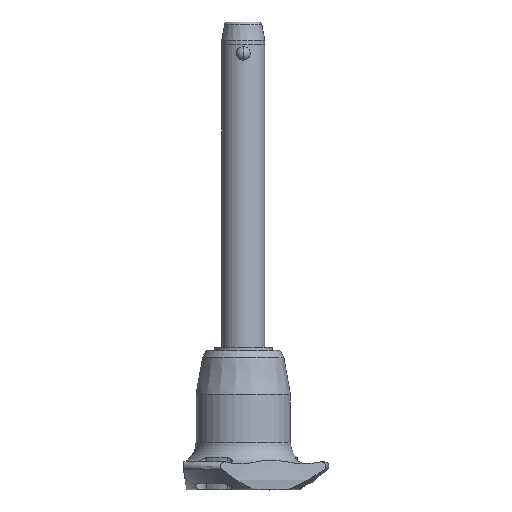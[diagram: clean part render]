
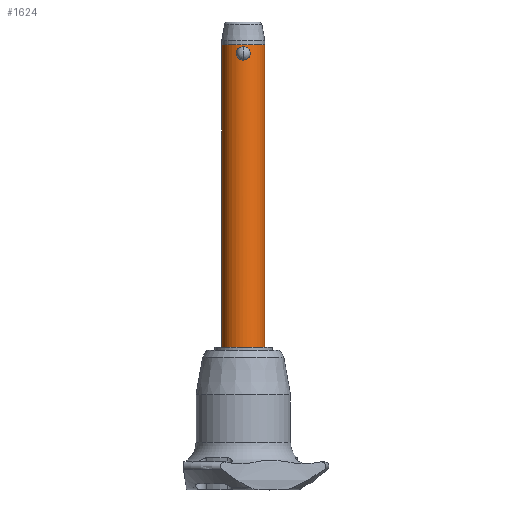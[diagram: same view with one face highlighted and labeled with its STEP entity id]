
A CAD part, front view. The second image highlights one B-rep face of the part: STEP entity #1624.
In plain terms, the highlighted cylindrical face has radius 6 mm (diameter 12 mm), a partial arc.
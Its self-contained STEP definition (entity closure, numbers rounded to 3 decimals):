
#3 = CARTESIAN_POINT ( 'NONE',  ( 0.966, -5.923, 3.476 ) ) ;
#39 = VERTEX_POINT ( 'NONE', #86 ) ;
#46 = CARTESIAN_POINT ( 'NONE',  ( -1.7, -5.755, 0.895 ) ) ;
#86 = CARTESIAN_POINT ( 'NONE',  ( -6., 0., -80. ) ) ;
#89 = CARTESIAN_POINT ( 'NONE',  ( 0.853, -5.94, 0.177 ) ) ;
#126 = CARTESIAN_POINT ( 'NONE',  ( 0., -6., 0. ) ) ;
#182 = CARTESIAN_POINT ( 'NONE',  ( 1.279, -5.863, 3.27 ) ) ;
#192 = CARTESIAN_POINT ( 'NONE',  ( 6., 0., -80. ) ) ;
#215 = LINE ( 'NONE', #1613, #2433 ) ;
#286 = CARTESIAN_POINT ( 'NONE',  ( 0., -6., 3.708 ) ) ;
#312 = CARTESIAN_POINT ( 'NONE',  ( 0.503, -5.983, 0.045 ) ) ;
#314 = CARTESIAN_POINT ( 'NONE',  ( -1.278, -5.863, 0.437 ) ) ;
#324 = B_SPLINE_CURVE_WITH_KNOTS ( 'NONE', 3,
 ( #126, #810, #312, #89, #2175, #1087, #1992, #1779, #408, #421, #2035, #2470, #2730, #1319, #2499, #1573, #435, #2690, #467, #182, #2225, #3, #2486, #1376, #1347, #859, #454, #1823 ),
 .UNSPECIFIED., .F., .F.,
 ( 4, 2, 2, 2, 2, 2, 2, 2, 2, 2, 2, 2, 2, 4 ),
 ( 0.006, 0.007, 0.007, 0.008, 0.008, 0.008, 0.009, 0.009, 0.01, 0.011, 0.011, 0.011, 0.012, 0.012 ),
 .UNSPECIFIED. ) ;
#338 = EDGE_CURVE ( 'NONE', #39, #725, #215, .T. ) ;
#353 = ORIENTED_EDGE ( 'NONE', *, *, #2637, .F. ) ;
#408 = CARTESIAN_POINT ( 'NONE',  ( 1.543, -5.799, 0.699 ) ) ;
#421 = CARTESIAN_POINT ( 'NONE',  ( 1.687, -5.758, 0.899 ) ) ;
#431 = LINE ( 'NONE', #192, #541 ) ;
#435 = CARTESIAN_POINT ( 'NONE',  ( 1.851, -5.708, 2.47 ) ) ;
#443 = B_SPLINE_CURVE_WITH_KNOTS ( 'NONE', 3,
 ( #286, #991, #731, #1402, #2756, #2307, #1641, #2800, #766, #719, #2816, #1197, #1626, #524, #2084, #1880, #2544, #747, #1656, #46, #1433, #314, #508, #2099, #1673, #1417, #1449, #2785 ),
 .UNSPECIFIED., .F., .F.,
 ( 4, 2, 2, 2, 2, 2, 2, 2, 2, 2, 2, 2, 2, 4 ),
 ( 0., 0., 0.001, 0.001, 0.002, 0.002, 0.002, 0.003, 0.003, 0.004, 0.005, 0.005, 0.005, 0.006 ),
 .UNSPECIFIED. ) ;
#454 = CARTESIAN_POINT ( 'NONE',  ( 0.127, -6., 3.708 ) ) ;
#463 = CARTESIAN_POINT ( 'NONE',  ( 0., -6., 3.708 ) ) ;
#467 = CARTESIAN_POINT ( 'NONE',  ( 1.551, -5.799, 3.018 ) ) ;
#508 = CARTESIAN_POINT ( 'NONE',  ( -1.179, -5.884, 0.363 ) ) ;
#524 = CARTESIAN_POINT ( 'NONE',  ( -1.9, -5.692, 2.359 ) ) ;
#541 = VECTOR ( 'NONE', #882, 1000. ) ;
#619 = CIRCLE ( 'NONE', #1957, 6. ) ;
#705 = CARTESIAN_POINT ( 'NONE',  ( 6., 0., -80. ) ) ;
#719 = CARTESIAN_POINT ( 'NONE',  ( -1.46, -5.821, 3.103 ) ) ;
#725 = VERTEX_POINT ( 'NONE', #2108 ) ;
#731 = CARTESIAN_POINT ( 'NONE',  ( -0.252, -5.996, 3.697 ) ) ;
#747 = CARTESIAN_POINT ( 'NONE',  ( -1.89, -5.695, 1.358 ) ) ;
#766 = CARTESIAN_POINT ( 'NONE',  ( -1.278, -5.863, 3.271 ) ) ;
#810 = CARTESIAN_POINT ( 'NONE',  ( 0.25, -6., 0. ) ) ;
#848 = ORIENTED_EDGE ( 'NONE', *, *, #1846, .T. ) ;
#859 = CARTESIAN_POINT ( 'NONE',  ( 0.252, -5.996, 3.697 ) ) ;
#867 = FACE_OUTER_BOUND ( 'NONE', #2642, .T. ) ;
#872 = DIRECTION ( 'NONE',  ( 1., 0., 0. ) ) ;
#882 = DIRECTION ( 'NONE',  ( 0., 0., 1. ) ) ;
#888 = CARTESIAN_POINT ( 'NONE',  ( 0., 0., 4.24 ) ) ;
#991 = CARTESIAN_POINT ( 'NONE',  ( -0.127, -6., 3.708 ) ) ;
#1046 = EDGE_LOOP ( 'NONE', ( #2703, #1228 ) ) ;
#1087 = CARTESIAN_POINT ( 'NONE',  ( 1.178, -5.884, 0.362 ) ) ;
#1123 = VERTEX_POINT ( 'NONE', #1194 ) ;
#1151 = FACE_BOUND ( 'NONE', #1046, .T. ) ;
#1194 = CARTESIAN_POINT ( 'NONE',  ( 6., 0., 4.24 ) ) ;
#1197 = CARTESIAN_POINT ( 'NONE',  ( -1.687, -5.759, 2.809 ) ) ;
#1228 = ORIENTED_EDGE ( 'NONE', *, *, #2614, .F. ) ;
#1283 = ORIENTED_EDGE ( 'NONE', *, *, #338, .F. ) ;
#1319 = CARTESIAN_POINT ( 'NONE',  ( 1.955, -5.673, 1.979 ) ) ;
#1347 = CARTESIAN_POINT ( 'NONE',  ( 0.498, -5.981, 3.652 ) ) ;
#1371 = CARTESIAN_POINT ( 'NONE',  ( 0., 0., -80. ) ) ;
#1376 = CARTESIAN_POINT ( 'NONE',  ( 0.62, -5.969, 3.619 ) ) ;
#1402 = CARTESIAN_POINT ( 'NONE',  ( -0.498, -5.981, 3.652 ) ) ;
#1417 = CARTESIAN_POINT ( 'NONE',  ( -0.504, -5.983, 0.045 ) ) ;
#1433 = CARTESIAN_POINT ( 'NONE',  ( -1.551, -5.799, 0.69 ) ) ;
#1449 = CARTESIAN_POINT ( 'NONE',  ( -0.25, -6., 0. ) ) ;
#1510 = AXIS2_PLACEMENT_3D ( 'NONE', #1371, #2933, #2234 ) ;
#1560 = DIRECTION ( 'NONE',  ( 0., 0., -1. ) ) ;
#1573 = CARTESIAN_POINT ( 'NONE',  ( 1.89, -5.695, 2.349 ) ) ;
#1613 = CARTESIAN_POINT ( 'NONE',  ( -6., 0., -80. ) ) ;
#1624 = ADVANCED_FACE ( 'NONE', ( #867, #1151 ), #2946, .T. ) ;
#1626 = CARTESIAN_POINT ( 'NONE',  ( -1.75, -5.74, 2.7 ) ) ;
#1641 = CARTESIAN_POINT ( 'NONE',  ( -0.966, -5.923, 3.476 ) ) ;
#1656 = CARTESIAN_POINT ( 'NONE',  ( -1.852, -5.707, 1.239 ) ) ;
#1673 = CARTESIAN_POINT ( 'NONE',  ( -0.853, -5.94, 0.177 ) ) ;
#1723 = EDGE_CURVE ( 'NONE', #1948, #2883, #443, .T. ) ;
#1779 = CARTESIAN_POINT ( 'NONE',  ( 1.459, -5.821, 0.604 ) ) ;
#1792 = DIRECTION ( 'NONE',  ( 0., 0., 1. ) ) ;
#1807 = DIRECTION ( 'NONE',  ( 1., 0., 0. ) ) ;
#1823 = CARTESIAN_POINT ( 'NONE',  ( 0., -6., 3.708 ) ) ;
#1846 = EDGE_CURVE ( 'NONE', #2417, #1123, #431, .T. ) ;
#1880 = CARTESIAN_POINT ( 'NONE',  ( -1.955, -5.673, 1.731 ) ) ;
#1935 = CARTESIAN_POINT ( 'NONE',  ( 0., -6., 0. ) ) ;
#1943 = ORIENTED_EDGE ( 'NONE', *, *, #2686, .F. ) ;
#1948 = VERTEX_POINT ( 'NONE', #463 ) ;
#1957 = AXIS2_PLACEMENT_3D ( 'NONE', #888, #1792, #1807 ) ;
#1992 = CARTESIAN_POINT ( 'NONE',  ( 1.277, -5.863, 0.437 ) ) ;
#2035 = CARTESIAN_POINT ( 'NONE',  ( 1.749, -5.74, 1.007 ) ) ;
#2084 = CARTESIAN_POINT ( 'NONE',  ( -1.955, -5.673, 2.107 ) ) ;
#2099 = CARTESIAN_POINT ( 'NONE',  ( -0.967, -5.923, 0.233 ) ) ;
#2108 = CARTESIAN_POINT ( 'NONE',  ( -6., 0., 4.24 ) ) ;
#2175 = CARTESIAN_POINT ( 'NONE',  ( 0.966, -5.923, 0.232 ) ) ;
#2225 = CARTESIAN_POINT ( 'NONE',  ( 1.178, -5.884, 3.346 ) ) ;
#2234 = DIRECTION ( 'NONE',  ( 1., 0., 0. ) ) ;
#2307 = CARTESIAN_POINT ( 'NONE',  ( -0.854, -5.94, 3.53 ) ) ;
#2377 = AXIS2_PLACEMENT_3D ( 'NONE', #2908, #1560, #872 ) ;
#2417 = VERTEX_POINT ( 'NONE', #705 ) ;
#2433 = VECTOR ( 'NONE', #2744, 1000. ) ;
#2470 = CARTESIAN_POINT ( 'NONE',  ( 1.901, -5.692, 1.35 ) ) ;
#2486 = CARTESIAN_POINT ( 'NONE',  ( 0.855, -5.94, 3.53 ) ) ;
#2499 = CARTESIAN_POINT ( 'NONE',  ( 1.942, -5.677, 2.103 ) ) ;
#2513 = CIRCLE ( 'NONE', #2377, 6. ) ;
#2544 = CARTESIAN_POINT ( 'NONE',  ( -1.942, -5.677, 1.604 ) ) ;
#2614 = EDGE_CURVE ( 'NONE', #2883, #1948, #324, .T. ) ;
#2637 = EDGE_CURVE ( 'NONE', #2417, #39, #2513, .T. ) ;
#2642 = EDGE_LOOP ( 'NONE', ( #1283, #353, #848, #1943 ) ) ;
#2686 = EDGE_CURVE ( 'NONE', #725, #1123, #619, .T. ) ;
#2690 = CARTESIAN_POINT ( 'NONE',  ( 1.7, -5.755, 2.812 ) ) ;
#2703 = ORIENTED_EDGE ( 'NONE', *, *, #1723, .F. ) ;
#2730 = CARTESIAN_POINT ( 'NONE',  ( 1.955, -5.673, 1.6 ) ) ;
#2744 = DIRECTION ( 'NONE',  ( 0., 0., 1. ) ) ;
#2756 = CARTESIAN_POINT ( 'NONE',  ( -0.62, -5.969, 3.619 ) ) ;
#2785 = CARTESIAN_POINT ( 'NONE',  ( 0., -6., 0. ) ) ;
#2800 = CARTESIAN_POINT ( 'NONE',  ( -1.177, -5.884, 3.347 ) ) ;
#2816 = CARTESIAN_POINT ( 'NONE',  ( -1.541, -5.799, 3.011 ) ) ;
#2883 = VERTEX_POINT ( 'NONE', #1935 ) ;
#2908 = CARTESIAN_POINT ( 'NONE',  ( 0., 0., -80. ) ) ;
#2933 = DIRECTION ( 'NONE',  ( 0., 0., 1. ) ) ;
#2946 = CYLINDRICAL_SURFACE ( 'NONE', #1510, 6. ) ;
